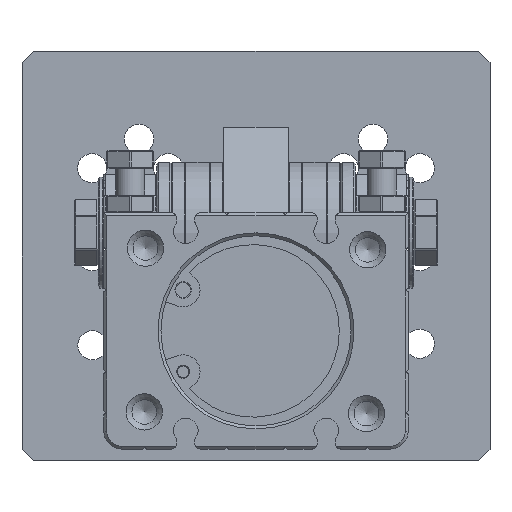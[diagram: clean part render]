
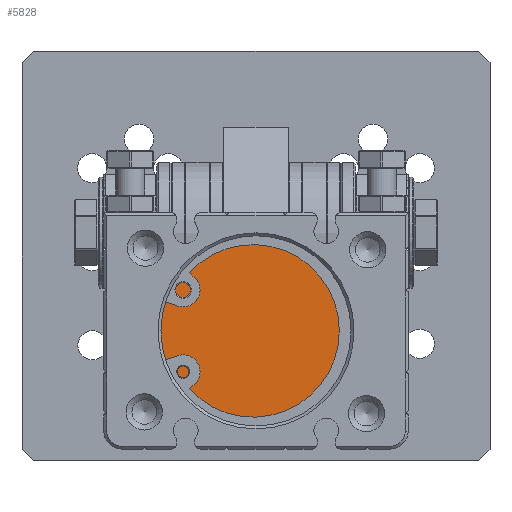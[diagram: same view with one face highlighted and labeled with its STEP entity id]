
A CAD part, front view. The second image highlights one B-rep face of the part: STEP entity #5828.
In plain terms, the highlighted planar face has unit normal (0, -1, 0).
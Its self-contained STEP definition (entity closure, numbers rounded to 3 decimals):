
#4046=FACE_OUTER_BOUND('',#14789,.T.);
#5828=ADVANCED_FACE('',(#4046),#7724,.F.);
#7724=PLANE('',#36598);
#14789=EDGE_LOOP('',(#22887));
#22887=ORIENTED_EDGE('',*,*,#33352,.T.);
#28786=VERTEX_POINT('',#59805);
#33352=EDGE_CURVE('',#28786,#28786,#34941,.T.);
#34941=CIRCLE('',#36597,17.);
#36597=AXIS2_PLACEMENT_3D('',#59804,#41965,#41966);
#36598=AXIS2_PLACEMENT_3D('',#59806,#41967,#41968);
#41965=DIRECTION('',(0.,-1.,0.));
#41966=DIRECTION('',(1.,0.,0.));
#41967=DIRECTION('',(0.,1.,0.));
#41968=DIRECTION('',(0.,0.,1.));
#59804=CARTESIAN_POINT('',(2926.,2024.6,20.2));
#59805=CARTESIAN_POINT('',(2943.,2024.6,20.2));
#59806=CARTESIAN_POINT('',(2926.,2024.6,20.2));
